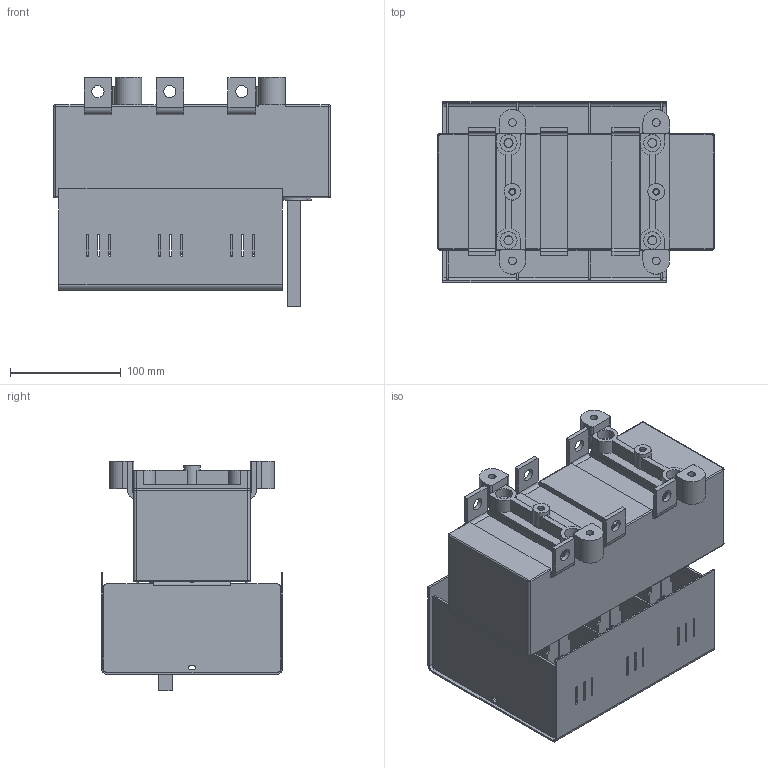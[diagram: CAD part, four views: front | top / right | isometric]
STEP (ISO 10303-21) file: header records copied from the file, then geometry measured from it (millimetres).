
FILE_DESCRIPTION(/* description */ (''),/* implementation_level */ '2;1');
FILE_NAME(/* name */ 'RAB 1 P3 C.stp',/* time_stamp */ '2021-08-19T13:04:40+02:00',/* author */ (''),/* organization */ (''),/* preprocessor_version */ 'ST-DEVELOPER v18.1',/* originating_system */ 'SIEMENS PLM Software NX 1965',/* authorisation */ '');
FILE_SCHEMA (('AUTOMOTIVE_DESIGN { 1 0 10303 214 3 1 1 1 }'));
Length unit declared in the file: millimetre
Products named in the file (1): RAB 1 P3 C_stp
Bounding box: 250 x 164 x 207.3 mm (x, y, z)
Volume: 2453710.1 mm3; surface area: 428512.4 mm2
Topology: 1 solids, 1 shells, 1014 faces, 2810 edges, 1830 vertices
Faces by surface type: plane 664, cylinder 342, torus 5, bspline 3
Full cylindrical faces by diameter (mm): 4.8 x2, 6.2 x2, 7 x4, 8.2 x4, 11 x6, 14 x4, 15 x2, 15.5 x4
Entity records: 32439 total; most frequent: CARTESIAN_POINT 5706, ORIENTED_EDGE 5556, DIRECTION 5530, EDGE_CURVE 2778, LINE 2038, VECTOR 2038, VERTEX_POINT 1826, AXIS2_PLACEMENT_3D 1746
